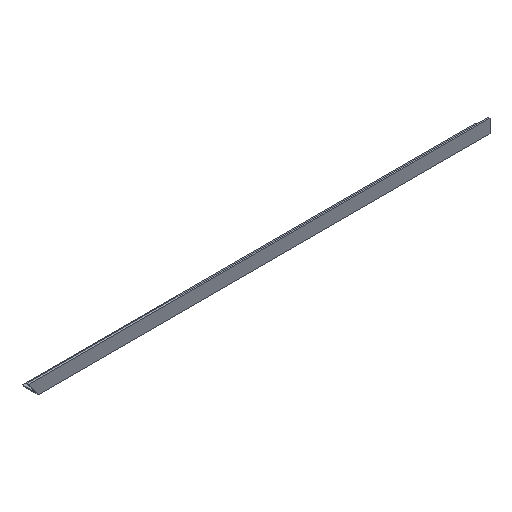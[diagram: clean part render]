
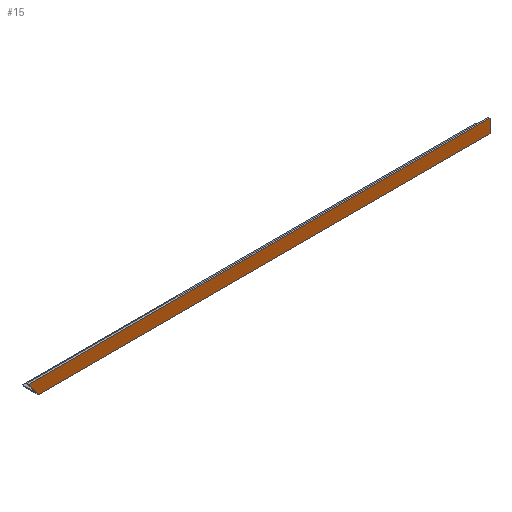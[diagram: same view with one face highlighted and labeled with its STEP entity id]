
A CAD part, isometric view. The second image highlights one B-rep face of the part: STEP entity #15.
In plain terms, the highlighted free-form (B-spline) face has degree [1, 3] with [2, 4] control points.
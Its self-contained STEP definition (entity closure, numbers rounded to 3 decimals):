
#15=ADVANCED_FACE('',(#21),#105,.T.);
#21=FACE_OUTER_BOUND('',#27,.T.);
#27=EDGE_LOOP('',(#36,#37,#38,#39));
#36=ORIENTED_EDGE('',*,*,#63,.T.);
#37=ORIENTED_EDGE('',*,*,#69,.T.);
#38=ORIENTED_EDGE('',*,*,#57,.F.);
#39=ORIENTED_EDGE('',*,*,#68,.F.);
#57=EDGE_CURVE('',#93,#94,#75,.T.);
#63=EDGE_CURVE('',#99,#100,#81,.T.);
#68=EDGE_CURVE('',#99,#93,#86,.T.);
#69=EDGE_CURVE('',#100,#94,#87,.T.);
#75=B_SPLINE_CURVE_WITH_KNOTS('',1,(#266,#267),.UNSPECIFIED.,.F.,.F.,(2,
2),(0.,47.),.UNSPECIFIED.);
#81=B_SPLINE_CURVE_WITH_KNOTS('',3,(#280,#281,#282,#283),.UNSPECIFIED.,.F.,
 .F.,(4,4),(0.,57.376),.UNSPECIFIED.);
#86=B_SPLINE_CURVE_WITH_KNOTS('',3,(#292,#293,#294,#295),.UNSPECIFIED.,.F.,
 .F.,(4,4),(417.494,2008.715),.UNSPECIFIED.);
#87=B_SPLINE_CURVE_WITH_KNOTS('',3,(#296,#297,#298,#299),.UNSPECIFIED.,.F.,
 .F.,(4,4),(450.32,2008.715),.UNSPECIFIED.);
#93=VERTEX_POINT('',#253);
#94=VERTEX_POINT('',#254);
#99=VERTEX_POINT('',#259);
#100=VERTEX_POINT('',#260);
#105=B_SPLINE_SURFACE_WITH_KNOTS('',1,3,((#212,#213,#214,#215),(#216,#217,
#218,#219)),.UNSPECIFIED.,.F.,.F.,.F.,(2,2),(4,4),(0.,47.),
(0.,2011.25),.UNSPECIFIED.);
#212=CARTESIAN_POINT('',(66547.134,14496.012,-1959.));
#213=CARTESIAN_POINT('',(67219.267,14496.012,-1959.));
#214=CARTESIAN_POINT('',(67891.413,14496.012,-1959.));
#215=CARTESIAN_POINT('',(68563.544,14496.012,-1959.));
#216=CARTESIAN_POINT('',(66547.134,14496.012,-2006.));
#217=CARTESIAN_POINT('',(67219.267,14496.012,-2006.));
#218=CARTESIAN_POINT('',(67891.413,14496.012,-2006.));
#219=CARTESIAN_POINT('',(68563.544,14496.012,-2006.));
#253=CARTESIAN_POINT('',(68561.001,14496.012,-1959.));
#254=CARTESIAN_POINT('',(68561.001,14496.012,-2006.));
#259=CARTESIAN_POINT('',(66965.699,14496.012,-1959.));
#260=CARTESIAN_POINT('',(66998.609,14496.012,-2006.));
#266=CARTESIAN_POINT('',(68561.001,14496.012,-1959.));
#267=CARTESIAN_POINT('',(68561.001,14496.012,-2006.));
#280=CARTESIAN_POINT('',(66965.699,14496.012,-1959.));
#281=CARTESIAN_POINT('',(66976.669,14496.012,-1974.667));
#282=CARTESIAN_POINT('',(66987.639,14496.012,-1990.333));
#283=CARTESIAN_POINT('',(66998.609,14496.012,-2006.));
#292=CARTESIAN_POINT('',(66965.699,14496.012,-1959.));
#293=CARTESIAN_POINT('',(67497.467,14496.012,-1959.));
#294=CARTESIAN_POINT('',(68029.238,14496.012,-1959.));
#295=CARTESIAN_POINT('',(68561.001,14496.012,-1959.));
#296=CARTESIAN_POINT('',(66998.609,14496.012,-2006.));
#297=CARTESIAN_POINT('',(67519.407,14496.012,-2006.));
#298=CARTESIAN_POINT('',(68040.208,14496.012,-2006.));
#299=CARTESIAN_POINT('',(68561.001,14496.012,-2006.));
